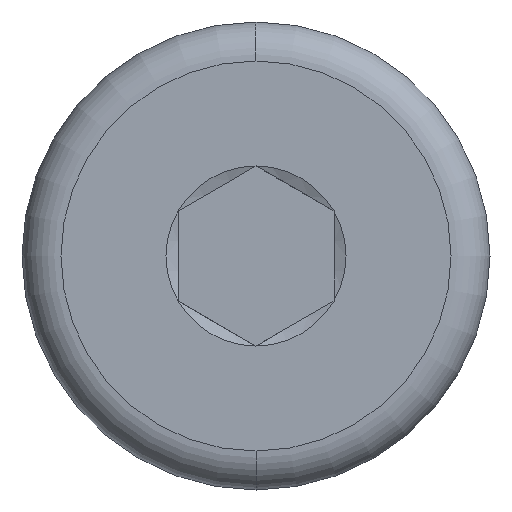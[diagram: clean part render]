
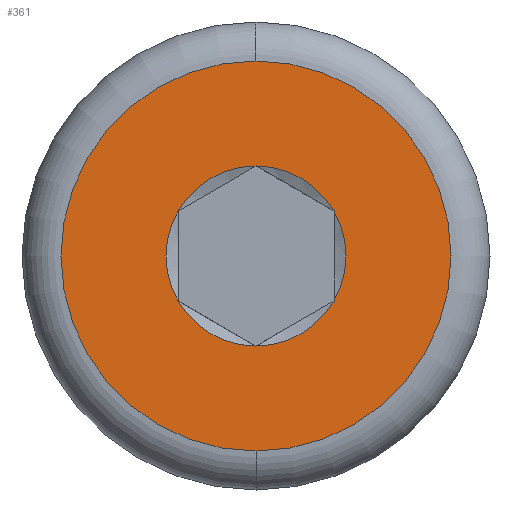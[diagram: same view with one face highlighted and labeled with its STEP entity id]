
A CAD part, left-side view. The second image highlights one B-rep face of the part: STEP entity #361.
In plain terms, the highlighted planar face has unit normal (-1, 0, 0).
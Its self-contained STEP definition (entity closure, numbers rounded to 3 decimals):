
#2 = EDGE_CURVE ( 'NONE', #602, #345, #265, .T. ) ;
#5 = CARTESIAN_POINT ( 'NONE',  ( 0., 0., -1.155 ) ) ;
#6 = VERTEX_POINT ( 'NONE', #25 ) ;
#16 = CARTESIAN_POINT ( 'NONE',  ( 0., 0., 0. ) ) ;
#25 = CARTESIAN_POINT ( 'NONE',  ( 0., 0., 1.155 ) ) ;
#32 = DIRECTION ( 'NONE',  ( 0., 0., -1. ) ) ;
#33 = ORIENTED_EDGE ( 'NONE', *, *, #272, .T. ) ;
#37 = CARTESIAN_POINT ( 'NONE',  ( 0., 0., 2.5 ) ) ;
#58 = FACE_BOUND ( 'NONE', #234, .T. ) ;
#68 = EDGE_CURVE ( 'NONE', #295, #391, #504, .T. ) ;
#70 = VERTEX_POINT ( 'NONE', #608 ) ;
#75 = EDGE_CURVE ( 'NONE', #70, #281, #340, .T. ) ;
#81 = CARTESIAN_POINT ( 'NONE',  ( 0., 0., 0. ) ) ;
#90 = CIRCLE ( 'NONE', #635, 1.155 ) ;
#96 = ORIENTED_EDGE ( 'NONE', *, *, #68, .T. ) ;
#124 = CARTESIAN_POINT ( 'NONE',  ( 0., 0., 0. ) ) ;
#127 = DIRECTION ( 'NONE',  ( 1., 0., 0. ) ) ;
#130 = ORIENTED_EDGE ( 'NONE', *, *, #501, .T. ) ;
#131 = VERTEX_POINT ( 'NONE', #677 ) ;
#135 = ORIENTED_EDGE ( 'NONE', *, *, #2, .F. ) ;
#139 = DIRECTION ( 'NONE',  ( 1., 0., 0. ) ) ;
#146 = CARTESIAN_POINT ( 'NONE',  ( 0., 0., 0. ) ) ;
#153 = AXIS2_PLACEMENT_3D ( 'NONE', #81, #648, #237 ) ;
#179 = CIRCLE ( 'NONE', #670, 2.5 ) ;
#180 = DIRECTION ( 'NONE',  ( 0., 0., -1. ) ) ;
#187 = DIRECTION ( 'NONE',  ( 0., 0., -1. ) ) ;
#189 = CIRCLE ( 'NONE', #153, 1.155 ) ;
#204 = ORIENTED_EDGE ( 'NONE', *, *, #472, .F. ) ;
#213 = AXIS2_PLACEMENT_3D ( 'NONE', #16, #318, #633 ) ;
#214 = CARTESIAN_POINT ( 'NONE',  ( 0., 0., -2.5 ) ) ;
#215 = CIRCLE ( 'NONE', #587, 1.155 ) ;
#219 = CARTESIAN_POINT ( 'NONE',  ( 0., 1., -0.577 ) ) ;
#230 = DIRECTION ( 'NONE',  ( 1., 0., 0. ) ) ;
#234 = EDGE_LOOP ( 'NONE', ( #671, #261, #257, #33, #96, #130 ) ) ;
#237 = DIRECTION ( 'NONE',  ( 0., 0., -1. ) ) ;
#254 = AXIS2_PLACEMENT_3D ( 'NONE', #397, #664, #187 ) ;
#257 = ORIENTED_EDGE ( 'NONE', *, *, #75, .T. ) ;
#260 = FACE_OUTER_BOUND ( 'NONE', #517, .T. ) ;
#261 = ORIENTED_EDGE ( 'NONE', *, *, #544, .T. ) ;
#265 = CIRCLE ( 'NONE', #430, 2.5 ) ;
#268 = AXIS2_PLACEMENT_3D ( 'NONE', #545, #230, #441 ) ;
#272 = EDGE_CURVE ( 'NONE', #281, #295, #90, .T. ) ;
#281 = VERTEX_POINT ( 'NONE', #638 ) ;
#295 = VERTEX_POINT ( 'NONE', #5 ) ;
#318 = DIRECTION ( 'NONE',  ( -1., 0., 0. ) ) ;
#322 = PLANE ( 'NONE',  #213 ) ;
#340 = CIRCLE ( 'NONE', #585, 1.155 ) ;
#344 = DIRECTION ( 'NONE',  ( 0., 0., -1. ) ) ;
#345 = VERTEX_POINT ( 'NONE', #214 ) ;
#361 = ADVANCED_FACE ( 'NONE', ( #58, #260 ), #322, .T. ) ;
#374 = DIRECTION ( 'NONE',  ( 1., 0., 0. ) ) ;
#384 = DIRECTION ( 'NONE',  ( 1., 0., 0. ) ) ;
#391 = VERTEX_POINT ( 'NONE', #219 ) ;
#397 = CARTESIAN_POINT ( 'NONE',  ( 0., 0., 0. ) ) ;
#430 = AXIS2_PLACEMENT_3D ( 'NONE', #548, #127, #32 ) ;
#441 = DIRECTION ( 'NONE',  ( 0., 0., -1. ) ) ;
#472 = EDGE_CURVE ( 'NONE', #345, #602, #179, .T. ) ;
#501 = EDGE_CURVE ( 'NONE', #391, #131, #655, .T. ) ;
#504 = CIRCLE ( 'NONE', #254, 1.155 ) ;
#517 = EDGE_LOOP ( 'NONE', ( #204, #135 ) ) ;
#535 = CARTESIAN_POINT ( 'NONE',  ( 0., 0., 0. ) ) ;
#544 = EDGE_CURVE ( 'NONE', #6, #70, #189, .T. ) ;
#545 = CARTESIAN_POINT ( 'NONE',  ( 0., 0., 0. ) ) ;
#548 = CARTESIAN_POINT ( 'NONE',  ( 0., 0., 0. ) ) ;
#576 = EDGE_CURVE ( 'NONE', #131, #6, #215, .T. ) ;
#584 = DIRECTION ( 'NONE',  ( 0., 0., -1. ) ) ;
#585 = AXIS2_PLACEMENT_3D ( 'NONE', #124, #139, #344 ) ;
#587 = AXIS2_PLACEMENT_3D ( 'NONE', #146, #613, #625 ) ;
#597 = CARTESIAN_POINT ( 'NONE',  ( 0., 0., 0. ) ) ;
#602 = VERTEX_POINT ( 'NONE', #37 ) ;
#608 = CARTESIAN_POINT ( 'NONE',  ( 0., -1., 0.577 ) ) ;
#613 = DIRECTION ( 'NONE',  ( 1., 0., 0. ) ) ;
#625 = DIRECTION ( 'NONE',  ( 0., 0., -1. ) ) ;
#633 = DIRECTION ( 'NONE',  ( 0., 0., 1. ) ) ;
#635 = AXIS2_PLACEMENT_3D ( 'NONE', #535, #374, #584 ) ;
#638 = CARTESIAN_POINT ( 'NONE',  ( 0., -1., -0.577 ) ) ;
#648 = DIRECTION ( 'NONE',  ( 1., 0., 0. ) ) ;
#655 = CIRCLE ( 'NONE', #268, 1.155 ) ;
#664 = DIRECTION ( 'NONE',  ( 1., 0., 0. ) ) ;
#670 = AXIS2_PLACEMENT_3D ( 'NONE', #597, #384, #180 ) ;
#671 = ORIENTED_EDGE ( 'NONE', *, *, #576, .T. ) ;
#677 = CARTESIAN_POINT ( 'NONE',  ( 0., 1., 0.577 ) ) ;
